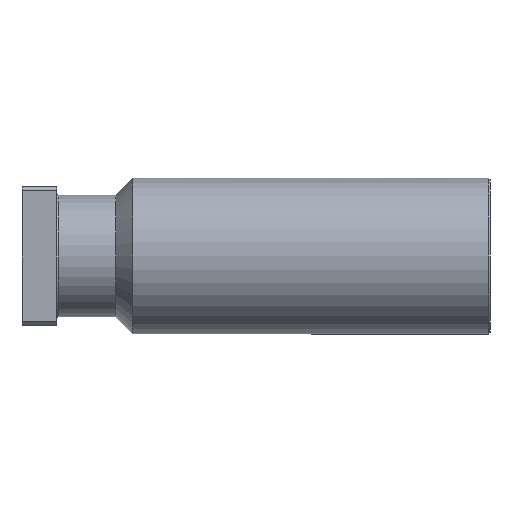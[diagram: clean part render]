
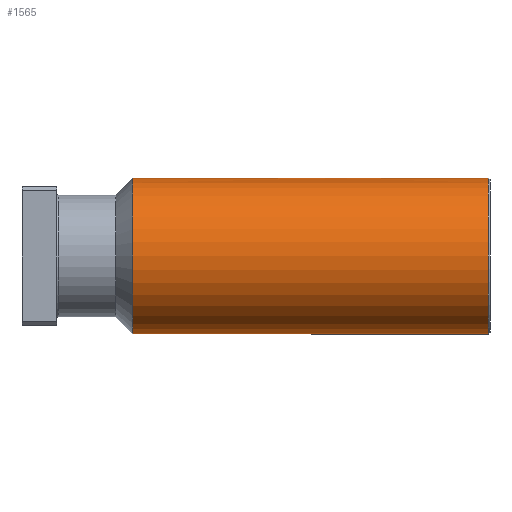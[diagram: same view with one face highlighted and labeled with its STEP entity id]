
A CAD part, front view. The second image highlights one B-rep face of the part: STEP entity #1565.
In plain terms, the highlighted cylindrical face has radius 22.5 mm (diameter 45 mm), a partial arc.
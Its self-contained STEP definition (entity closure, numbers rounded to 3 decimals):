
#52 = CARTESIAN_POINT ( 'NONE',  ( 92.692, -0.445, 22.496 ) ) ;
#61 = DIRECTION ( 'NONE',  ( 0., 0., 1. ) ) ;
#78 = CARTESIAN_POINT ( 'NONE',  ( 90.775, -1.676, 22.437 ) ) ;
#81 = EDGE_CURVE ( 'NONE', #1264, #475, #1575, .T. ) ;
#124 = DIRECTION ( 'NONE',  ( -1., 0., 0. ) ) ;
#126 = ORIENTED_EDGE ( 'NONE', *, *, #81, .F. ) ;
#182 = CYLINDRICAL_SURFACE ( 'NONE', #405, 22.5 ) ;
#190 = CARTESIAN_POINT ( 'NONE',  ( 92.566, -0.76, 22.487 ) ) ;
#196 = CARTESIAN_POINT ( 'NONE',  ( 0., 0., 0. ) ) ;
#219 = CARTESIAN_POINT ( 'NONE',  ( 90.446, -1.604, 22.443 ) ) ;
#264 = CIRCLE ( 'NONE', #1204, 22.5 ) ;
#323 = CARTESIAN_POINT ( 'NONE',  ( 0., 0., 22.5 ) ) ;
#338 = DIRECTION ( 'NONE',  ( -1., 0., 0. ) ) ;
#347 = CARTESIAN_POINT ( 'NONE',  ( 92.382, -1.041, 22.476 ) ) ;
#350 = CARTESIAN_POINT ( 'NONE',  ( 92.75, 0., 22.5 ) ) ;
#356 = DIRECTION ( 'NONE',  ( -1., 0., 0. ) ) ;
#371 = CARTESIAN_POINT ( 'NONE',  ( 89.938, -1.359, 22.459 ) ) ;
#399 = B_SPLINE_CURVE_WITH_KNOTS ( 'NONE', 3,
 ( #1668, #1496, #929, #52, #1081, #190, #1226, #347, #1361, #496, #1511, #647, #1644, #795 ),
 .UNSPECIFIED., .F., .F.,
 ( 4, 2, 2, 2, 2, 2, 4 ),
 ( 0.007, 0.007, 0.007, 0.008, 0.008, 0.009, 0.009 ),
 .UNSPECIFIED. ) ;
#405 = AXIS2_PLACEMENT_3D ( 'NONE', #196, #356, #61 ) ;
#475 = VERTEX_POINT ( 'NONE', #1482 ) ;
#490 = CARTESIAN_POINT ( 'NONE',  ( 32., 0., -22.5 ) ) ;
#496 = CARTESIAN_POINT ( 'NONE',  ( 92.062, -1.358, 22.459 ) ) ;
#502 = CARTESIAN_POINT ( 'NONE',  ( 91., -1.687, 22.437 ) ) ;
#511 = EDGE_CURVE ( 'NONE', #1567, #969, #1143, .T. ) ;
#524 = CARTESIAN_POINT ( 'NONE',  ( 89.618, -1.04, 22.476 ) ) ;
#587 = DIRECTION ( 'NONE',  ( -1., 0., 0. ) ) ;
#647 = CARTESIAN_POINT ( 'NONE',  ( 91.45, -1.644, 22.44 ) ) ;
#674 = CARTESIAN_POINT ( 'NONE',  ( 89.432, -0.757, 22.487 ) ) ;
#675 = ORIENTED_EDGE ( 'NONE', *, *, #1188, .T. ) ;
#719 = ORIENTED_EDGE ( 'NONE', *, *, #511, .T. ) ;
#737 = CARTESIAN_POINT ( 'NONE',  ( 0., 0., -22.5 ) ) ;
#749 = ORIENTED_EDGE ( 'NONE', *, *, #1547, .T. ) ;
#753 = EDGE_LOOP ( 'NONE', ( #994, #1500, #846, #749, #719, #675, #126 ) ) ;
#766 = EDGE_CURVE ( 'NONE', #890, #1366, #1413, .T. ) ;
#785 = CARTESIAN_POINT ( 'NONE',  ( 0., 0., 22.5 ) ) ;
#795 = CARTESIAN_POINT ( 'NONE',  ( 91., -1.687, 22.437 ) ) ;
#825 = CARTESIAN_POINT ( 'NONE',  ( 89.25, -0.224, 22.5 ) ) ;
#846 = ORIENTED_EDGE ( 'NONE', *, *, #766, .T. ) ;
#864 = EDGE_CURVE ( 'NONE', #1490, #890, #264, .T. ) ;
#873 = CARTESIAN_POINT ( 'NONE',  ( 134.5, 0., 0. ) ) ;
#890 = VERTEX_POINT ( 'NONE', #1722 ) ;
#929 = CARTESIAN_POINT ( 'NONE',  ( 92.738, -0.226, 22.499 ) ) ;
#946 = EDGE_CURVE ( 'NONE', #1490, #1264, #962, .T. ) ;
#958 = CARTESIAN_POINT ( 'NONE',  ( 90.888, -1.687, 22.437 ) ) ;
#962 = LINE ( 'NONE', #737, #1667 ) ;
#969 = VERTEX_POINT ( 'NONE', #1596 ) ;
#987 = AXIS2_PLACEMENT_3D ( 'NONE', #1009, #124, #1155 ) ;
#994 = ORIENTED_EDGE ( 'NONE', *, *, #946, .F. ) ;
#1009 = CARTESIAN_POINT ( 'NONE',  ( 32., 0., 0. ) ) ;
#1022 = DIRECTION ( 'NONE',  ( 0., 0., 1. ) ) ;
#1073 = DIRECTION ( 'NONE',  ( -1., 0., 0. ) ) ;
#1081 = CARTESIAN_POINT ( 'NONE',  ( 92.657, -0.553, 22.493 ) ) ;
#1111 = CARTESIAN_POINT ( 'NONE',  ( 90.553, -1.634, 22.441 ) ) ;
#1143 = B_SPLINE_CURVE_WITH_KNOTS ( 'NONE', 3,
 ( #1807, #958, #78, #1111, #219, #1247, #371, #1390, #524, #1536, #674, #1669, #825, #1815 ),
 .UNSPECIFIED., .F., .F.,
 ( 4, 2, 2, 2, 2, 2, 4 ),
 ( 0.009, 0.01, 0.01, 0.011, 0.011, 0.011, 0.012 ),
 .UNSPECIFIED. ) ;
#1155 = DIRECTION ( 'NONE',  ( 0., 0., 1. ) ) ;
#1188 = EDGE_CURVE ( 'NONE', #969, #475, #1600, .T. ) ;
#1204 = AXIS2_PLACEMENT_3D ( 'NONE', #873, #1865, #1022 ) ;
#1226 = CARTESIAN_POINT ( 'NONE',  ( 92.511, -0.858, 22.484 ) ) ;
#1232 = VECTOR ( 'NONE', #1073, 1000. ) ;
#1247 = CARTESIAN_POINT ( 'NONE',  ( 90.133, -1.481, 22.451 ) ) ;
#1264 = VERTEX_POINT ( 'NONE', #490 ) ;
#1355 = VECTOR ( 'NONE', #338, 1000. ) ;
#1361 = CARTESIAN_POINT ( 'NONE',  ( 92.307, -1.127, 22.472 ) ) ;
#1366 = VERTEX_POINT ( 'NONE', #350 ) ;
#1390 = CARTESIAN_POINT ( 'NONE',  ( 89.692, -1.125, 22.472 ) ) ;
#1413 = LINE ( 'NONE', #785, #1355 ) ;
#1482 = CARTESIAN_POINT ( 'NONE',  ( 32., 0., 22.5 ) ) ;
#1490 = VERTEX_POINT ( 'NONE', #1814 ) ;
#1496 = CARTESIAN_POINT ( 'NONE',  ( 92.75, -0.113, 22.5 ) ) ;
#1500 = ORIENTED_EDGE ( 'NONE', *, *, #864, .T. ) ;
#1511 = CARTESIAN_POINT ( 'NONE',  ( 91.867, -1.481, 22.451 ) ) ;
#1536 = CARTESIAN_POINT ( 'NONE',  ( 89.489, -0.857, 22.484 ) ) ;
#1547 = EDGE_CURVE ( 'NONE', #1366, #1567, #399, .T. ) ;
#1565 = ADVANCED_FACE ( 'NONE', ( #1690 ), #182, .T. ) ;
#1567 = VERTEX_POINT ( 'NONE', #502 ) ;
#1575 = CIRCLE ( 'NONE', #987, 22.5 ) ;
#1596 = CARTESIAN_POINT ( 'NONE',  ( 89.25, 0., 22.5 ) ) ;
#1600 = LINE ( 'NONE', #323, #1232 ) ;
#1644 = CARTESIAN_POINT ( 'NONE',  ( 91.224, -1.687, 22.437 ) ) ;
#1667 = VECTOR ( 'NONE', #587, 1000. ) ;
#1668 = CARTESIAN_POINT ( 'NONE',  ( 92.75, 0., 22.5 ) ) ;
#1669 = CARTESIAN_POINT ( 'NONE',  ( 89.298, -0.45, 22.496 ) ) ;
#1690 = FACE_OUTER_BOUND ( 'NONE', #753, .T. ) ;
#1722 = CARTESIAN_POINT ( 'NONE',  ( 134.5, 0., 22.5 ) ) ;
#1807 = CARTESIAN_POINT ( 'NONE',  ( 91., -1.687, 22.437 ) ) ;
#1814 = CARTESIAN_POINT ( 'NONE',  ( 134.5, 0., -22.5 ) ) ;
#1815 = CARTESIAN_POINT ( 'NONE',  ( 89.25, 0., 22.5 ) ) ;
#1865 = DIRECTION ( 'NONE',  ( -1., 0., 0. ) ) ;
